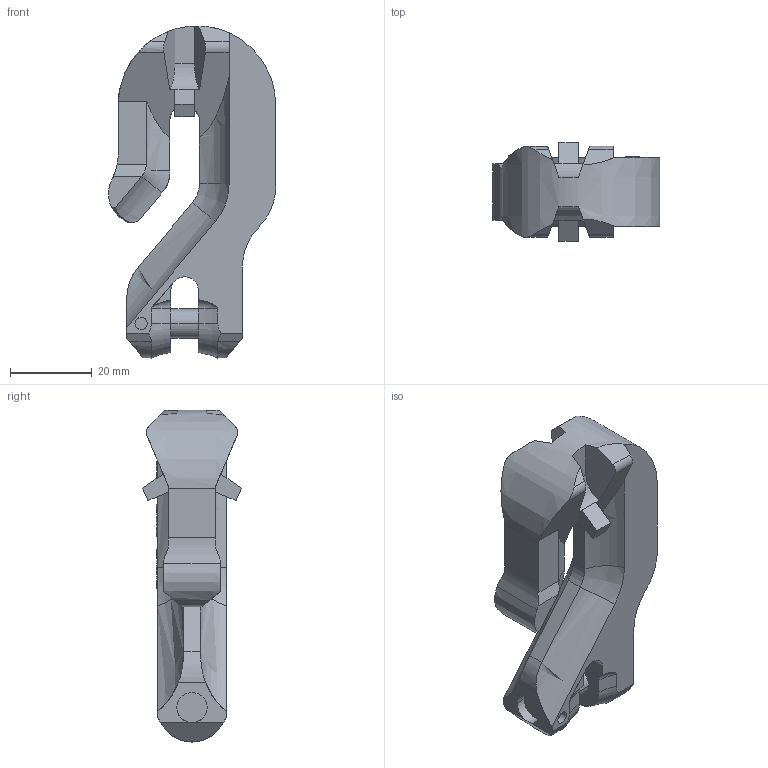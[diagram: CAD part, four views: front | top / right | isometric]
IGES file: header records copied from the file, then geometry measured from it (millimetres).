
Start section:  PTC IGES file: C:\Aktuell-Internet\CAD-Daten\3vvh6.igs
Global section: file name: C:\Aktuell-Internet\CAD-Daten\3vvh6.igs; native system: Pro/ENGINEER by Parametric Technology Corporation; preprocessor: 2001400; author: jakubetz; organization: Unknown; date: 030821.122907; units: millimetre
Bounding box: 40.8 x 24.1 x 80.99 mm (x, y, z)
Surface area: 9333.3 mm2 (no closed solid volume)
Topology: 0 solids, 0 shells, 328 faces, 1824 edges, 1824 vertices
Faces by surface type: bspline 276, revolution 52
